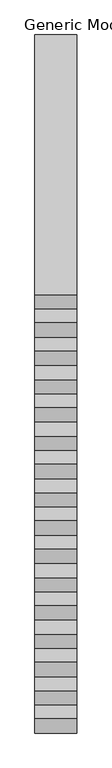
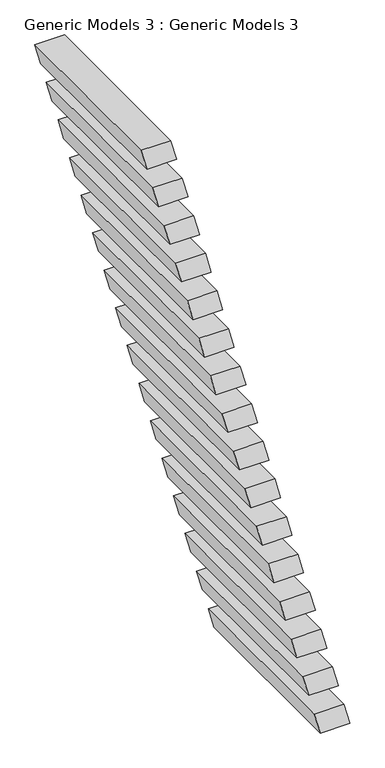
"""IFC4 building model written with IfcOpenShell, lengths in millimetres: proxy geometry, Generic Models 3 : Generic Models 3."""

from ifc_helpers import new_model, si_unit, frame, origin, place, context, project, spatial, polyline, outline, extrude, source, transform, mapped, element, save


def generic_models_3_generic_models_3_a1db2418(model_context):
    return source(origin(), model_context, "Body", "SweptSolid", [
        extrude(outline(polyline([(24452.0710982, 166.2241464), (25787.0245139, 166.2241464), (25714.3702611, 66.2241464), (24379.4168454, 66.2241464), (24452.0710982, 166.2241464)])), frame((40968.8424841, 0.0, 0.0), z_axis=(1.0, 0.0, 0.0), x_axis=(0.0, 1.0, 0.0)), (0.0, 0.0, 1.0), 214.5864817),
        extrude(outline(polyline([(27893.9978451, 3066.2241464), (26559.0444294, 3066.2241464), (26631.6986822, 3166.2241464), (27966.6520979, 3166.2241464), (27893.9978451, 3066.2241464)])), frame((40968.8424841, 0.0, 0.0), z_axis=(1.0, 0.0, 0.0), x_axis=(0.0, 1.0, 0.0)), (0.0, 0.0, 1.0), 214.5864817),
        extrude(outline(polyline([(26486.3901766, 2966.2241464), (27821.3435923, 2966.2241464), (27748.6893395, 2866.2241464), (26413.7359238, 2866.2241464), (26486.3901766, 2966.2241464)])), frame((40968.8424841, 0.0, 0.0), z_axis=(1.0, 0.0, 0.0), x_axis=(0.0, 1.0, 0.0)), (0.0, 0.0, 1.0), 214.5864817),
        extrude(outline(polyline([(26341.081671, 2766.2241464), (27676.0350867, 2766.2241464), (27603.3808339, 2666.2241464), (26268.4274182, 2666.2241464), (26341.081671, 2766.2241464)])), frame((40968.8424841, 0.0, 0.0), z_axis=(1.0, 0.0, 0.0), x_axis=(0.0, 1.0, 0.0)), (0.0, 0.0, 1.0), 214.5864817),
        extrude(outline(polyline([(26195.7731654, 2566.2241464), (27530.7265811, 2566.2241464), (27458.0723283, 2466.2241464), (26123.1189126, 2466.2241464), (26195.7731654, 2566.2241464)])), frame((40968.8424841, 0.0, 0.0), z_axis=(1.0, 0.0, 0.0), x_axis=(0.0, 1.0, 0.0)), (0.0, 0.0, 1.0), 214.5864817),
        extrude(outline(polyline([(26050.4646598, 2366.2241464), (27385.4180755, 2366.2241464), (27312.7638227, 2266.2241464), (25977.810407, 2266.2241464), (26050.4646598, 2366.2241464)])), frame((40968.8424841, 0.0, 0.0), z_axis=(1.0, 0.0, 0.0), x_axis=(0.0, 1.0, 0.0)), (0.0, 0.0, 1.0), 214.5864817),
        extrude(outline(polyline([(25905.1561542, 2166.2241464), (27240.1095699, 2166.2241464), (27167.4553171, 2066.2241464), (25832.5019014, 2066.2241464), (25905.1561542, 2166.2241464)])), frame((40968.8424841, 0.0, 0.0), z_axis=(1.0, 0.0, 0.0), x_axis=(0.0, 1.0, 0.0)), (0.0, 0.0, 1.0), 214.5864817),
        extrude(outline(polyline([(25759.8476486, 1966.2241464), (27094.8010643, 1966.2241464), (27022.1468115, 1866.2241464), (25687.1933958, 1866.2241464), (25759.8476486, 1966.2241464)])), frame((40968.8424841, 0.0, 0.0), z_axis=(1.0, 0.0, 0.0), x_axis=(0.0, 1.0, 0.0)), (0.0, 0.0, 1.0), 214.5864817),
        extrude(outline(polyline([(25614.539143, 1766.2241464), (26949.4925587, 1766.2241464), (26876.8383059, 1666.2241464), (25541.8848902, 1666.2241464), (25614.539143, 1766.2241464)])), frame((40968.8424841, 0.0, 0.0), z_axis=(1.0, 0.0, 0.0), x_axis=(0.0, 1.0, 0.0)), (0.0, 0.0, 1.0), 214.5864817),
        extrude(outline(polyline([(25469.2306374, 1566.2241464), (26804.1840531, 1566.2241464), (26731.5298003, 1466.2241464), (25396.5763846, 1466.2241464), (25469.2306374, 1566.2241464)])), frame((40968.8424841, 0.0, 0.0), z_axis=(1.0, 0.0, 0.0), x_axis=(0.0, 1.0, 0.0)), (0.0, 0.0, 1.0), 214.5864817),
        extrude(outline(polyline([(25323.9221318, 1366.2241464), (26658.8755475, 1366.2241464), (26586.2212947, 1266.2241464), (25251.267879, 1266.2241464), (25323.9221318, 1366.2241464)])), frame((40968.8424841, 0.0, 0.0), z_axis=(1.0, 0.0, 0.0), x_axis=(0.0, 1.0, 0.0)), (0.0, 0.0, 1.0), 214.5864817),
        extrude(outline(polyline([(25178.6136262, 1166.2241464), (26513.5670419, 1166.2241464), (26440.9127891, 1066.2241464), (25105.9593734, 1066.2241464), (25178.6136262, 1166.2241464)])), frame((40968.8424841, 0.0, 0.0), z_axis=(1.0, 0.0, 0.0), x_axis=(0.0, 1.0, 0.0)), (0.0, 0.0, 1.0), 214.5864817),
        extrude(outline(polyline([(25033.3051206, 966.2241464), (26368.2585363, 966.2241464), (26295.6042835, 866.2241464), (24960.6508678, 866.2241464), (25033.3051206, 966.2241464)])), frame((40968.8424841, 0.0, 0.0), z_axis=(1.0, 0.0, 0.0), x_axis=(0.0, 1.0, 0.0)), (0.0, 0.0, 1.0), 214.5864817),
        extrude(outline(polyline([(24887.996615, 766.2241464), (26222.9500307, 766.2241464), (26150.2957779, 666.2241464), (24815.3423622, 666.2241464), (24887.996615, 766.2241464)])), frame((40968.8424841, 0.0, 0.0), z_axis=(1.0, 0.0, 0.0), x_axis=(0.0, 1.0, 0.0)), (0.0, 0.0, 1.0), 214.5864817),
        extrude(outline(polyline([(24742.6881094, 566.2241464), (26077.6415251, 566.2241464), (26004.9872723, 466.2241464), (24670.0338566, 466.2241464), (24742.6881094, 566.2241464)])), frame((40968.8424841, 0.0, 0.0), z_axis=(1.0, 0.0, 0.0), x_axis=(0.0, 1.0, 0.0)), (0.0, 0.0, 1.0), 214.5864817),
        extrude(outline(polyline([(24597.3796038, 366.2241464), (25932.3330195, 366.2241464), (25859.6787667, 266.2241464), (24524.725351, 266.2241464), (24597.3796038, 366.2241464)])), frame((40968.8424841, 0.0, 0.0), z_axis=(1.0, 0.0, 0.0), x_axis=(0.0, 1.0, 0.0)), (0.0, 0.0, 1.0), 214.5864817),
    ])


if __name__ == "__main__":
    model = new_model("IFC4")
    model_context = context("Model", 3, world=origin())
    ifc_project = project(units=[si_unit("LENGTHUNIT", "METRE", prefix="MILLI")], contexts=[model_context])
    site = spatial("IfcSite", under=ifc_project)
    building = spatial("IfcBuilding", under=site)
    placement = place(None, origin())
    generic_models_3_generic_models_3_shape = generic_models_3_generic_models_3_a1db2418(model_context)
    element("IfcBuildingElementProxy", 1, Name="Generic Models 3 : Generic Models 3", ObjectType="Generic Models 3 : Generic Models 3", at=placement, inside=building, context=model_context, shape_type="MappedRepresentation", body=[
        mapped(generic_models_3_generic_models_3_shape, transform((0.0, 0.0, 0.0), x_axis=(1.0, 0.0, 0.0), y_axis=(0.0, 1.0, 0.0), z_axis=(0.0, 0.0, 1.0))),
    ])
    save(model, "model.ifc")
